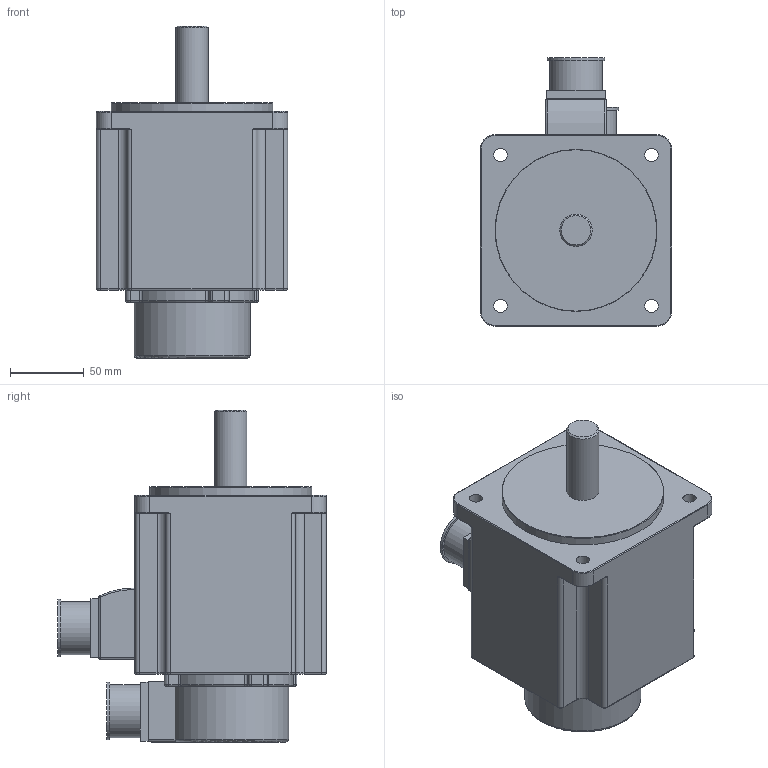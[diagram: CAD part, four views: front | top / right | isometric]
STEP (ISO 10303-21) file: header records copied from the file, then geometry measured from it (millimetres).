
FILE_DESCRIPTION(/* description */ (''),/* implementation_level */ '2;1');
FILE_NAME(/* name */ '130MSL07220.stp',/* time_stamp */ '2019-11-22T13:46:37+08:00',/* author */ (''),/* organization */ (''),/* preprocessor_version */ 'ST-DEVELOPER v16',/* originating_system */ 'SIEMENS PLM Software NX 10.0',/* authorisation */ '');
FILE_SCHEMA (('CONFIG_CONTROL_DESIGN'));
Length unit declared in the file: millimetre
Products named in the file (1): 130MSL07220
Bounding box: 130 x 182.5 x 225.5 mm (x, y, z)
Volume: 2312045.9 mm3; surface area: 126764.9 mm2
Topology: 1 solids, 1 shells, 254 faces, 605 edges, 343 vertices
Faces by surface type: cylinder 117, plane 60, torus 55, sphere 12, bspline 8, cone 2
Full cylindrical faces by diameter (mm): 9 x4, 22 x1, 36 x2, 39 x2, 110 x1
Entity records: 7294 total; most frequent: CARTESIAN_POINT 1396, DIRECTION 1339, ORIENTED_EDGE 1138, EDGE_CURVE 569, AXIS2_PLACEMENT_3D 545, VERTEX_POINT 337, CIRCLE 296, EDGE_LOOP 282
